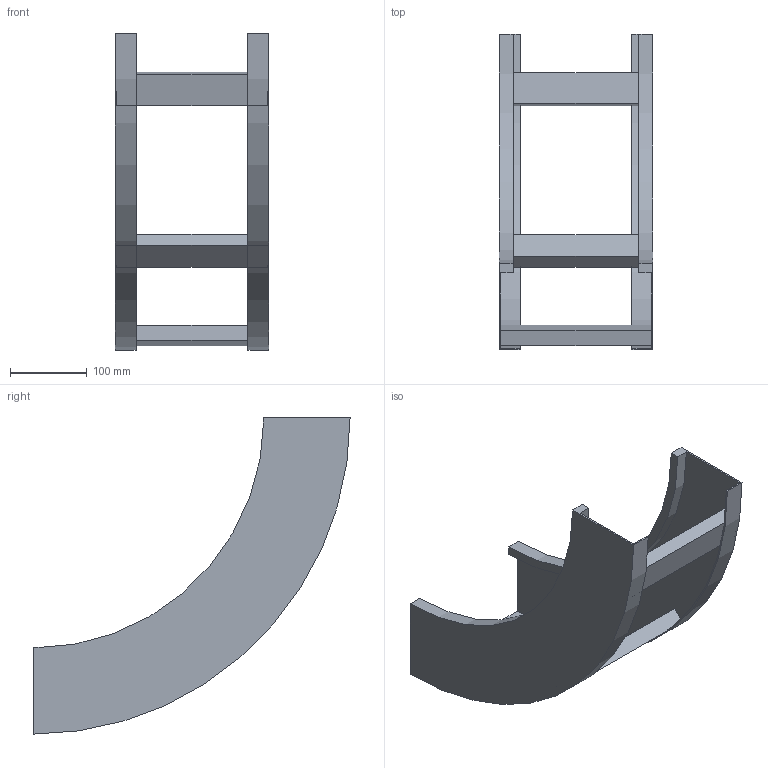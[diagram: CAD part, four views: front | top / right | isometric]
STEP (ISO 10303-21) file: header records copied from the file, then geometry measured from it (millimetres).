
FILE_DESCRIPTION (( 'STEP AP214' ), '1' );
FILE_NAME ('B2X30B3J200XX.step', '2025-03-20T10:22:39', ( '' ), ( '' ), 'SwSTEP 2.0', 'SolidWorks 2023', '' );
FILE_SCHEMA (( 'AUTOMOTIVE_DESIGN' ));
Length unit declared in the file: millimetre
Products named in the file (3): B2_LONGH.SALITA_90°_H112.5_R300; TRAVERSINO_200; B2X30B3J200XX
Assembly tree (5 placements, depth 2):
  B2X30B3J200XX
    B2_LONGH.SALITA_90°_H112.5_R300  x2
    TRAVERSINO_200  x3
Bounding box: 200 x 412.5 x 412.5 mm (x, y, z)
Volume: 977311.4 mm3; surface area: 429571.8 mm2
Topology: 5 solids, 5 shells, 38 faces, 84 edges, 56 vertices
Faces by surface type: plane 30, cylinder 8
Entity records: 560 total; most frequent: DIRECTION 92, CARTESIAN_POINT 84, ORIENTED_EDGE 72, EDGE_CURVE 36, AXIS2_PLACEMENT_3D 32, VECTOR 28, LINE 28, VERTEX_POINT 24
